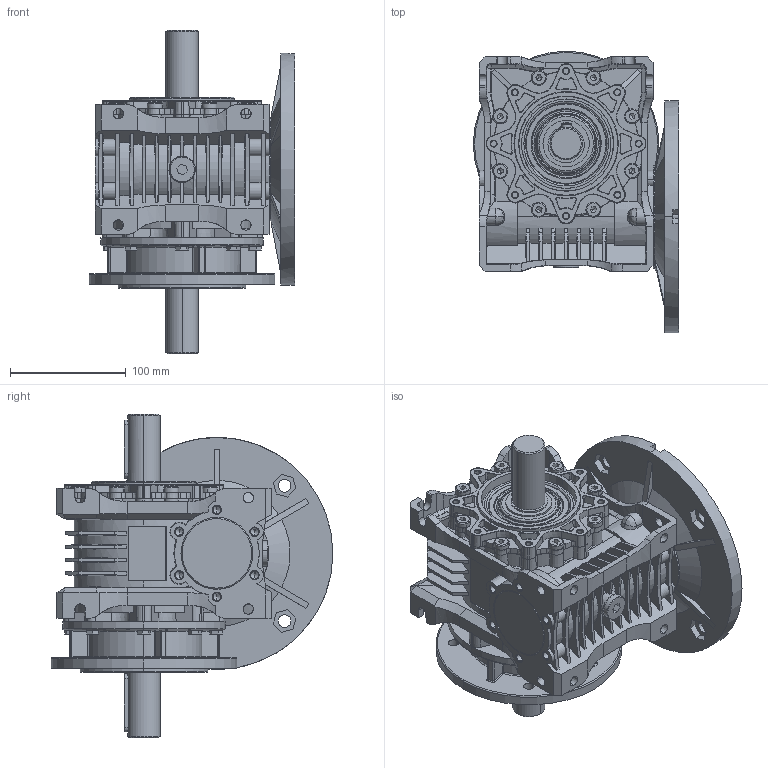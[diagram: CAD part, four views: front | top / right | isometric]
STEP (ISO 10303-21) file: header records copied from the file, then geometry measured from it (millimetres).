
FILE_DESCRIPTION (( 'STEP AP203' ), '1' );
FILE_NAME ('MR-63_200-19_K160-1_WD-1_3D.STEP', '2023-09-26T10:48:35', ( '' ), ( '' ), 'SwSTEP 2.0', 'SolidWorks 2022', '' );
FILE_SCHEMA (( 'CONFIG_CONTROL_DESIGN' ));
Length unit declared in the file: millimetre
Products named in the file (1): MR-63_200-19_K160-1_WD-1_3D
Bounding box: 177 x 243 x 279 mm (x, y, z)
Volume: 2575890.5 mm3; surface area: 449142 mm2
Topology: 1 solids, 61 shells, 3390 faces, 8542 edges, 5285 vertices
Faces by surface type: plane 1302, cone 794, cylinder 790, torus 280, bspline 130, sphere 94
Entity records: 106277 total; most frequent: CARTESIAN_POINT 26481, DIRECTION 16895, ORIENTED_EDGE 16804, EDGE_CURVE 8402, AXIS2_PLACEMENT_3D 6491, VERTEX_POINT 5263, VECTOR 3913, LINE 3913
